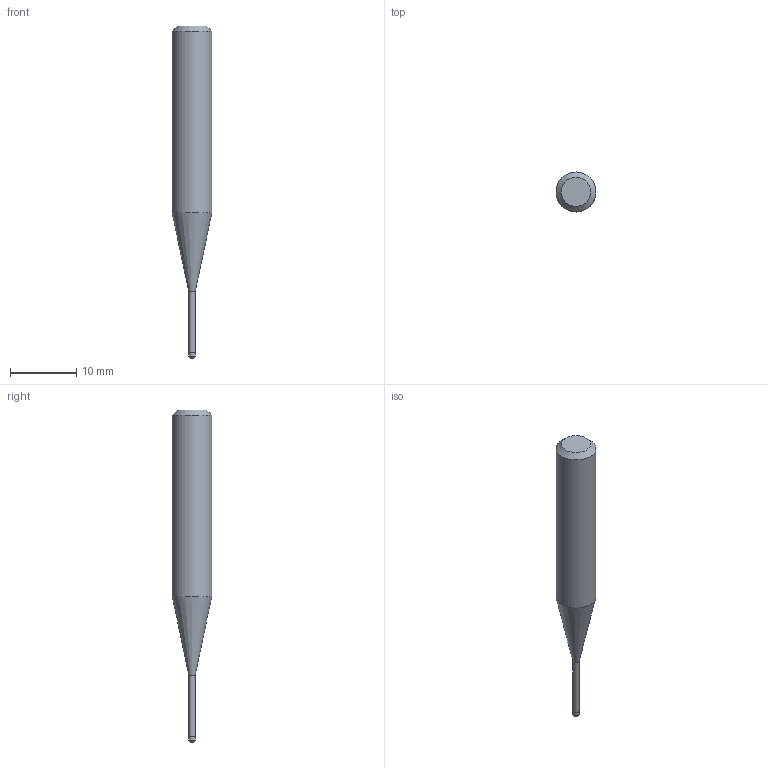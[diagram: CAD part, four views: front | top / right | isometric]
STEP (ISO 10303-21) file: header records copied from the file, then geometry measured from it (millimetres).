
FILE_DESCRIPTION((''),'2;1');
FILE_NAME('C:\Users\nsx150\AppData\Local\Temp\Mastercam 2021\17T8Q8S9EB\TEMP.step','2021-04-21T14:34:32',(''),(''),'STEP Write','Mastercam 2021 ... CNC Software, Inc.','');
FILE_SCHEMA(('AUTOMOTIVE_DESIGN'));
Length unit declared in the file: millimetre
Products named in the file (1): None
Bounding box: 6 x 6 x 50 mm (x, y, z)
Volume: 929.2 mm3; surface area: 713.1 mm2
Topology: 2 solids, 2 shells, 10 faces, 14 edges, 8 vertices
Faces by surface type: plane 4, cylinder 3, cone 2, torus 1
Full cylindrical faces by diameter (mm): 0.95 x1, 1 x1, 6 x1
Entity records: 232 total; most frequent: DIRECTION 40, CARTESIAN_POINT 28, AXIS2_PLACEMENT_3D 20, ORIENTED_EDGE 16, EDGE_LOOP 16, STYLED_ITEM 13, ADVANCED_FACE 10, FACE_BOUND 10
